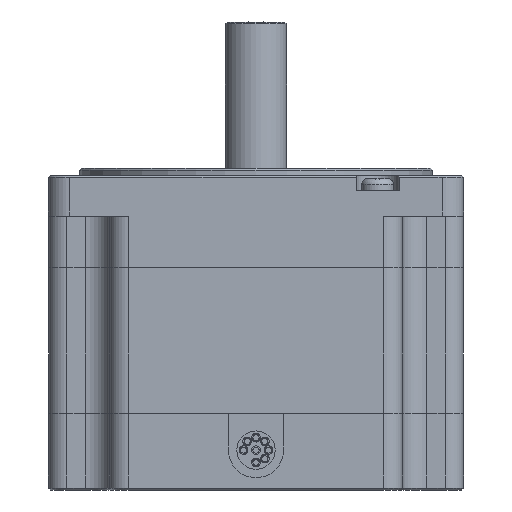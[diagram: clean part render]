
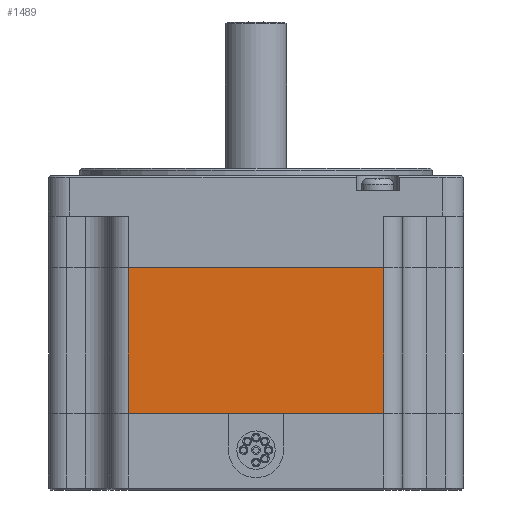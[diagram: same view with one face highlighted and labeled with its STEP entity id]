
A CAD part, front view. The second image highlights one B-rep face of the part: STEP entity #1489.
In plain terms, the highlighted planar face has unit normal (0, -1, 0).
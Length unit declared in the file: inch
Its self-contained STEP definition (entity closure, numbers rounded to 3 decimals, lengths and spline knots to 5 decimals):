
#1436 = EDGE_CURVE ( 'NONE', #1477, #17317, #14717, .T. ) ;
#1477 = VERTEX_POINT ( 'NONE', #14737 ) ;
#1484 = EDGE_LOOP ( 'NONE', ( #1510, #1514, #1575, #3033 ) ) ;
#1488 = VERTEX_POINT ( 'NONE', #14770 ) ;
#1489 = ADVANCED_FACE ( 'NONE', ( #14803 ), #3735, .F. ) ;
#1510 = ORIENTED_EDGE ( 'NONE', *, *, #2154, .T. ) ;
#1514 = ORIENTED_EDGE ( 'NONE', *, *, #1531, .F. ) ;
#1531 = EDGE_CURVE ( 'NONE', #1488, #2146, #14917, .T. ) ;
#1575 = ORIENTED_EDGE ( 'NONE', *, *, #3068, .F. ) ;
#2146 = VERTEX_POINT ( 'NONE', #16822 ) ;
#2154 = EDGE_CURVE ( 'NONE', #17317, #2146, #16844, .T. ) ;
#3033 = ORIENTED_EDGE ( 'NONE', *, *, #1436, .T. ) ;
#3068 = EDGE_CURVE ( 'NONE', #1477, #1488, #6167, .T. ) ;
#3630 = AXIS2_PLACEMENT_3D ( 'NONE', #3647, #3646, #3675 ) ;
#3646 = DIRECTION ( 'NONE',  ( 0., 1., 0. ) ) ;
#3647 = CARTESIAN_POINT ( 'NONE',  ( 1.04, -1.689, -1.935 ) ) ;
#3675 = DIRECTION ( 'NONE',  ( -1., 0., 0. ) ) ;
#3735 = PLANE ( 'NONE',  #3630 ) ;
#6128 = DIRECTION ( 'NONE',  ( -1., 0., 0. ) ) ;
#6129 = CARTESIAN_POINT ( 'NONE',  ( 1.04, -1.689, -1.935 ) ) ;
#6161 = VECTOR ( 'NONE', #6128, 39.37008 ) ;
#6167 = LINE ( 'NONE', #6129, #6161 ) ;
#11982 = CARTESIAN_POINT ( 'NONE',  ( 1.04, -1.689, -0.75 ) ) ;
#14714 = DIRECTION ( 'NONE',  ( 0., 0., 1. ) ) ;
#14715 = VECTOR ( 'NONE', #14714, 39.37008 ) ;
#14716 = CARTESIAN_POINT ( 'NONE',  ( 1.04, -1.689, -1.935 ) ) ;
#14717 = LINE ( 'NONE', #14716, #14715 ) ;
#14737 = CARTESIAN_POINT ( 'NONE',  ( 1.04, -1.689, -1.935 ) ) ;
#14770 = CARTESIAN_POINT ( 'NONE',  ( -1.04, -1.689, -1.935 ) ) ;
#14803 = FACE_OUTER_BOUND ( 'NONE', #1484, .T. ) ;
#14914 = DIRECTION ( 'NONE',  ( 0., 0., 1. ) ) ;
#14915 = VECTOR ( 'NONE', #14914, 39.37008 ) ;
#14916 = CARTESIAN_POINT ( 'NONE',  ( -1.04, -1.689, -1.935 ) ) ;
#14917 = LINE ( 'NONE', #14916, #14915 ) ;
#16822 = CARTESIAN_POINT ( 'NONE',  ( -1.04, -1.689, -0.75 ) ) ;
#16836 = DIRECTION ( 'NONE',  ( -1., 0., 0. ) ) ;
#16837 = VECTOR ( 'NONE', #16836, 39.37008 ) ;
#16843 = CARTESIAN_POINT ( 'NONE',  ( 1.04, -1.689, -0.75 ) ) ;
#16844 = LINE ( 'NONE', #16843, #16837 ) ;
#17317 = VERTEX_POINT ( 'NONE', #11982 ) ;
